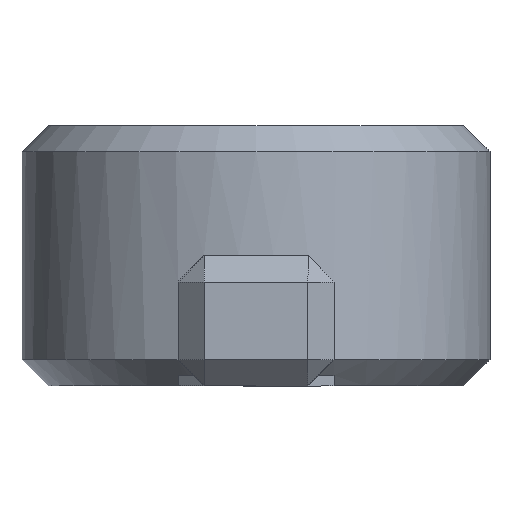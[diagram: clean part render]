
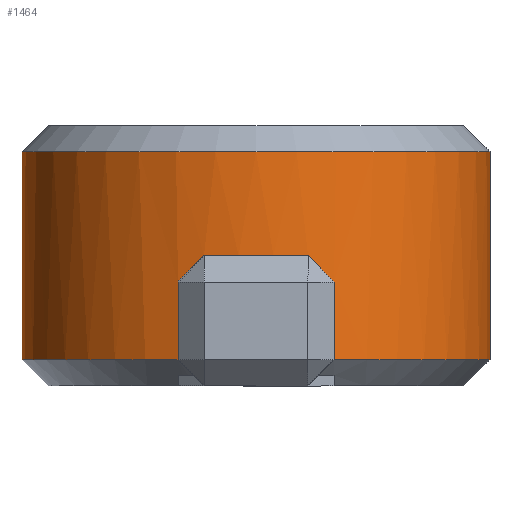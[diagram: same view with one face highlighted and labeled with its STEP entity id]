
A CAD part, front view. The second image highlights one B-rep face of the part: STEP entity #1464.
In plain terms, the highlighted cylindrical face has radius 4.5 mm (diameter 9 mm), a partial arc.
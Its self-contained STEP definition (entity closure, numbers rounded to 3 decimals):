
#29 = CARTESIAN_POINT ( 'NONE',  ( 1.336, 0.199, 2.164 ) ) ;
#57 = VERTEX_POINT ( 'NONE', #447 ) ;
#66 = CARTESIAN_POINT ( 'NONE',  ( 0., 4.5, 4.5 ) ) ;
#107 = DIRECTION ( 'NONE',  ( 0., 0., -1. ) ) ;
#118 = DIRECTION ( 'NONE',  ( 0., 0., 1. ) ) ;
#138 = CARTESIAN_POINT ( 'NONE',  ( 1.169, 0.151, 2.331 ) ) ;
#146 = VERTEX_POINT ( 'NONE', #1385 ) ;
#147 = LINE ( 'NONE', #1044, #1227 ) ;
#182 = EDGE_CURVE ( 'NONE', #1201, #553, #358, .T. ) ;
#227 = EDGE_CURVE ( 'NONE', #1201, #1156, #788, .T. ) ;
#252 = CARTESIAN_POINT ( 'NONE',  ( -4.5, 4.5, 4.5 ) ) ;
#255 = CARTESIAN_POINT ( 'NONE',  ( 0., 4.5, 0.5 ) ) ;
#258 = CARTESIAN_POINT ( 'NONE',  ( -1.5, 0.257, 2. ) ) ;
#275 = EDGE_CURVE ( 'NONE', #146, #57, #536, .T. ) ;
#300 = CARTESIAN_POINT ( 'NONE',  ( 0., 4.5, 2.5 ) ) ;
#308 = CARTESIAN_POINT ( 'NONE',  ( 1.5, 0.257, 0.5 ) ) ;
#317 = VECTOR ( 'NONE', #705, 1000. ) ;
#319 = CARTESIAN_POINT ( 'NONE',  ( 4.5, 4.5, 4.5 ) ) ;
#338 = DIRECTION ( 'NONE',  ( 0., 0., 1. ) ) ;
#358 = LINE ( 'NONE', #1353, #363 ) ;
#363 = VECTOR ( 'NONE', #107, 1000. ) ;
#364 = ORIENTED_EDGE ( 'NONE', *, *, #1173, .T. ) ;
#372 = ORIENTED_EDGE ( 'NONE', *, *, #841, .F. ) ;
#378 = VERTEX_POINT ( 'NONE', #319 ) ;
#393 = CIRCLE ( 'NONE', #1078, 4.5 ) ;
#399 = DIRECTION ( 'NONE',  ( 1., 0., 0. ) ) ;
#429 = AXIS2_PLACEMENT_3D ( 'NONE', #300, #118, #399 ) ;
#445 = VERTEX_POINT ( 'NONE', #550 ) ;
#447 = CARTESIAN_POINT ( 'NONE',  ( 1.5, 0.257, 2. ) ) ;
#511 = LINE ( 'NONE', #988, #709 ) ;
#525 = ORIENTED_EDGE ( 'NONE', *, *, #763, .T. ) ;
#536 =( BOUNDED_CURVE ( )  B_SPLINE_CURVE ( 3, ( #1168, #138, #29, #1399 ),
 .UNSPECIFIED., .F., .T. ) 
 B_SPLINE_CURVE_WITH_KNOTS ( ( 4, 4 ),
 ( 1.795, 1.911 ),
 .UNSPECIFIED. ) 
 CURVE ( )  GEOMETRIC_REPRESENTATION_ITEM ( )  RATIONAL_B_SPLINE_CURVE ( ( 1., 0.999, 0.999, 1. ) ) 
 REPRESENTATION_ITEM ( '' )  );
#539 = DIRECTION ( 'NONE',  ( 1., 0., 0. ) ) ;
#544 = CIRCLE ( 'NONE', #732, 4.5 ) ;
#550 = CARTESIAN_POINT ( 'NONE',  ( -4.5, 4.5, 0.5 ) ) ;
#553 = VERTEX_POINT ( 'NONE', #1120 ) ;
#575 = ORIENTED_EDGE ( 'NONE', *, *, #227, .T. ) ;
#581 = CIRCLE ( 'NONE', #1269, 4.5 ) ;
#595 = ORIENTED_EDGE ( 'NONE', *, *, #689, .T. ) ;
#604 = CARTESIAN_POINT ( 'NONE',  ( -4.5, 4.5, 2.5 ) ) ;
#605 = CARTESIAN_POINT ( 'NONE',  ( -1.336, 0.199, 2.164 ) ) ;
#610 = DIRECTION ( 'NONE',  ( 0., 0., 1. ) ) ;
#624 = CARTESIAN_POINT ( 'NONE',  ( -1., 0.113, 2.5 ) ) ;
#638 = ORIENTED_EDGE ( 'NONE', *, *, #1043, .T. ) ;
#689 = EDGE_CURVE ( 'NONE', #445, #553, #581, .T. ) ;
#694 = EDGE_CURVE ( 'NONE', #445, #1057, #1188, .T. ) ;
#705 = DIRECTION ( 'NONE',  ( 0., 0., 1. ) ) ;
#709 = VECTOR ( 'NONE', #1211, 1000. ) ;
#726 = CYLINDRICAL_SURFACE ( 'NONE', #429, 4.5 ) ;
#732 = AXIS2_PLACEMENT_3D ( 'NONE', #910, #338, #1036 ) ;
#735 = FACE_OUTER_BOUND ( 'NONE', #1363, .T. ) ;
#763 = EDGE_CURVE ( 'NONE', #1156, #146, #958, .T. ) ;
#788 =( BOUNDED_CURVE ( )  B_SPLINE_CURVE ( 3, ( #258, #605, #1414, #624 ),
 .UNSPECIFIED., .F., .T. ) 
 B_SPLINE_CURVE_WITH_KNOTS ( ( 4, 4 ),
 ( 4.373, 4.488 ),
 .UNSPECIFIED. ) 
 CURVE ( )  GEOMETRIC_REPRESENTATION_ITEM ( )  RATIONAL_B_SPLINE_CURVE ( ( 1., 0.999, 0.999, 1. ) ) 
 REPRESENTATION_ITEM ( '' )  );
#798 = ORIENTED_EDGE ( 'NONE', *, *, #182, .F. ) ;
#816 = ORIENTED_EDGE ( 'NONE', *, *, #1268, .F. ) ;
#837 = CARTESIAN_POINT ( 'NONE',  ( 0., 4.5, 2.5 ) ) ;
#841 = EDGE_CURVE ( 'NONE', #1057, #378, #393, .T. ) ;
#910 = CARTESIAN_POINT ( 'NONE',  ( 0., 4.5, 0.5 ) ) ;
#934 = DIRECTION ( 'NONE',  ( 0., 0., 1. ) ) ;
#946 = CARTESIAN_POINT ( 'NONE',  ( -1., 0.113, 2.5 ) ) ;
#949 = DIRECTION ( 'NONE',  ( 0., -1., 0. ) ) ;
#958 = CIRCLE ( 'NONE', #1338, 4.5 ) ;
#968 = ORIENTED_EDGE ( 'NONE', *, *, #275, .T. ) ;
#988 = CARTESIAN_POINT ( 'NONE',  ( 1.5, 0.257, 2.5 ) ) ;
#996 = DIRECTION ( 'NONE',  ( 0., 0., 1. ) ) ;
#1036 = DIRECTION ( 'NONE',  ( 1., 0., 0. ) ) ;
#1043 = EDGE_CURVE ( 'NONE', #1194, #1373, #544, .T. ) ;
#1044 = CARTESIAN_POINT ( 'NONE',  ( 4.5, 4.5, 2.5 ) ) ;
#1057 = VERTEX_POINT ( 'NONE', #252 ) ;
#1078 = AXIS2_PLACEMENT_3D ( 'NONE', #66, #996, #539 ) ;
#1120 = CARTESIAN_POINT ( 'NONE',  ( -1.5, 0.257, 0.5 ) ) ;
#1156 = VERTEX_POINT ( 'NONE', #946 ) ;
#1168 = CARTESIAN_POINT ( 'NONE',  ( 1., 0.113, 2.5 ) ) ;
#1173 = EDGE_CURVE ( 'NONE', #1373, #378, #147, .T. ) ;
#1188 = LINE ( 'NONE', #604, #317 ) ;
#1194 = VERTEX_POINT ( 'NONE', #308 ) ;
#1201 = VERTEX_POINT ( 'NONE', #1206 ) ;
#1206 = CARTESIAN_POINT ( 'NONE',  ( -1.5, 0.257, 2. ) ) ;
#1211 = DIRECTION ( 'NONE',  ( 0., 0., 1. ) ) ;
#1227 = VECTOR ( 'NONE', #934, 1000. ) ;
#1268 = EDGE_CURVE ( 'NONE', #1194, #57, #511, .T. ) ;
#1269 = AXIS2_PLACEMENT_3D ( 'NONE', #255, #1302, #1279 ) ;
#1279 = DIRECTION ( 'NONE',  ( 1., 0., 0. ) ) ;
#1299 = ORIENTED_EDGE ( 'NONE', *, *, #694, .F. ) ;
#1302 = DIRECTION ( 'NONE',  ( 0., 0., 1. ) ) ;
#1338 = AXIS2_PLACEMENT_3D ( 'NONE', #837, #610, #949 ) ;
#1341 = CARTESIAN_POINT ( 'NONE',  ( 4.5, 4.5, 0.5 ) ) ;
#1353 = CARTESIAN_POINT ( 'NONE',  ( -1.5, 0.257, 2.5 ) ) ;
#1363 = EDGE_LOOP ( 'NONE', ( #1299, #595, #798, #575, #525, #968, #816, #638, #364, #372 ) ) ;
#1373 = VERTEX_POINT ( 'NONE', #1341 ) ;
#1385 = CARTESIAN_POINT ( 'NONE',  ( 1., 0.113, 2.5 ) ) ;
#1399 = CARTESIAN_POINT ( 'NONE',  ( 1.5, 0.257, 2. ) ) ;
#1414 = CARTESIAN_POINT ( 'NONE',  ( -1.169, 0.151, 2.331 ) ) ;
#1464 = ADVANCED_FACE ( 'NONE', ( #735 ), #726, .T. ) ;
